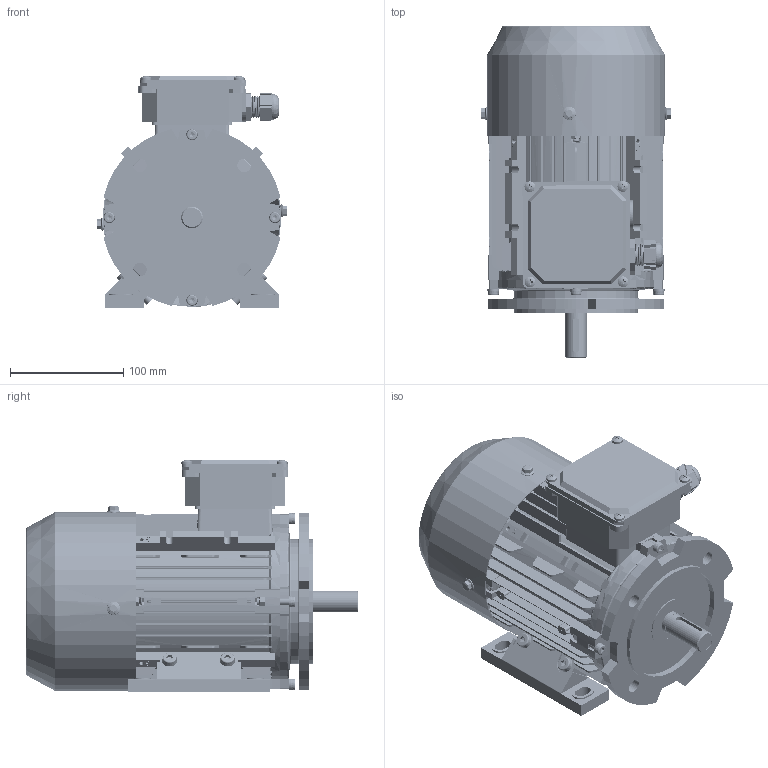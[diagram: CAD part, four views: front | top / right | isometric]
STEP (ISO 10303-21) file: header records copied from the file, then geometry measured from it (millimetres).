
FILE_DESCRIPTION (( 'STEP AP203' ), '1' );
FILE_NAME ('ME3-80B35R 3Dͼ.STEP', '2024-07-29T01:21:18', ( 'User' ), ( 'China' ), 'SwSTEP 2.0', 'SolidWorks 2018', '' );
FILE_SCHEMA (( 'CONFIG_CONTROL_DESIGN' ));
Length unit declared in the file: millimetre
Products named in the file (22): hex lobular socket head cap screws-4.8 gb_GB_HEXAGON_TYPE21 M8X30-30-C; hex nuts, style 2-grades ab gb_GB_HEXAGON_TYPE13 M5 Normal Style-C; ME3 80儂褲; wave single coil spring lock washers gb_GB_FASTENER_WASHER_WSLW 8; hex lobular socket head cap screws-4.8 gb_GB_HEXAGON_TYPE21 M6X30-30-S; ME2  B3后瑞盖; hex nuts-style normal-grades ab gb_GB_HEXAGON_TYPE10 M8X1-C; ME2  80瑞欶; ME2  80蛌粣; ME2-80 B5R瑞盖; hex flange bolts-heavy grade b gb_GB_FASTENER_BOLT_HFBB M5X10-C; MS63-71諉盄碟菁釱; 34X20X7蚐猾; wave single coil spring lock washers gb_GB_FASTENER_WASHER_WSLW 6; 蹟杶郋M20X1.5; ME3-80B35R 3Dͼ; hex lobular socket head cap screws-4.8 gb_GB_HEXAGON_TYPE21 M6X30-30-C; 蹟簸M20X1.5; 黑芛20X1.5; cross recessed pan head screws gb_GB_CROSS_SCREWS_TYPE1 M5X8-8  H type-C; ME2 80菁褐; MS63-71諉盄碟裔
Assembly tree (55 placements, depth 2):
  ME3-80B35R 3Dͼ
    ME3 80儂褲
    ME2  B3后瑞盖
    ME2  80蛌粣
    MS63-71諉盄碟菁釱
    蹟杶郋M20X1.5
    蹟簸M20X1.5
    cross recessed pan head screws gb_GB_CROSS_SCREWS_TYPE1 M5X8-8  H type-C  x8
    MS63-71諉盄碟裔
    hex nuts, style 2-grades ab gb_GB_HEXAGON_TYPE13 M5 Normal Style-C  x7
    hex lobular socket head cap screws-4.8 gb_GB_HEXAGON_TYPE21 M6X30-30-S  x4
    ME2  80瑞欶
    hex flange bolts-heavy grade b gb_GB_FASTENER_BOLT_HFBB M5X10-C  x3
    wave single coil spring lock washers gb_GB_FASTENER_WASHER_WSLW 6  x4
    hex lobular socket head cap screws-4.8 gb_GB_HEXAGON_TYPE21 M6X30-30-C  x4
    黑芛20X1.5
    ME2 80菁褐  x2
    hex lobular socket head cap screws-4.8 gb_GB_HEXAGON_TYPE21 M8X30-30-C  x4
    wave single coil spring lock washers gb_GB_FASTENER_WASHER_WSLW 8  x4
    hex nuts-style normal-grades ab gb_GB_HEXAGON_TYPE10 M8X1-C  x4
    ME2-80 B5R瑞盖
    34X20X7蚐猾
Bounding box: 168.19 x 292.56 x 205 mm (x, y, z)
Volume: 1016330.3 mm3; surface area: 654266 mm2
Topology: 55 solids, 57 shells, 5480 faces, 14099 edges, 8867 vertices
Faces by surface type: plane 2589, cylinder 1305, cone 1133, torus 219, bspline 218, sphere 16
Entity records: 144890 total; most frequent: CARTESIAN_POINT 46324, ORIENTED_EDGE 21112, DIRECTION 18164, EDGE_CURVE 10556, VERTEX_POINT 6865, LINE 6116, VECTOR 6116, AXIS2_PLACEMENT_3D 6024
